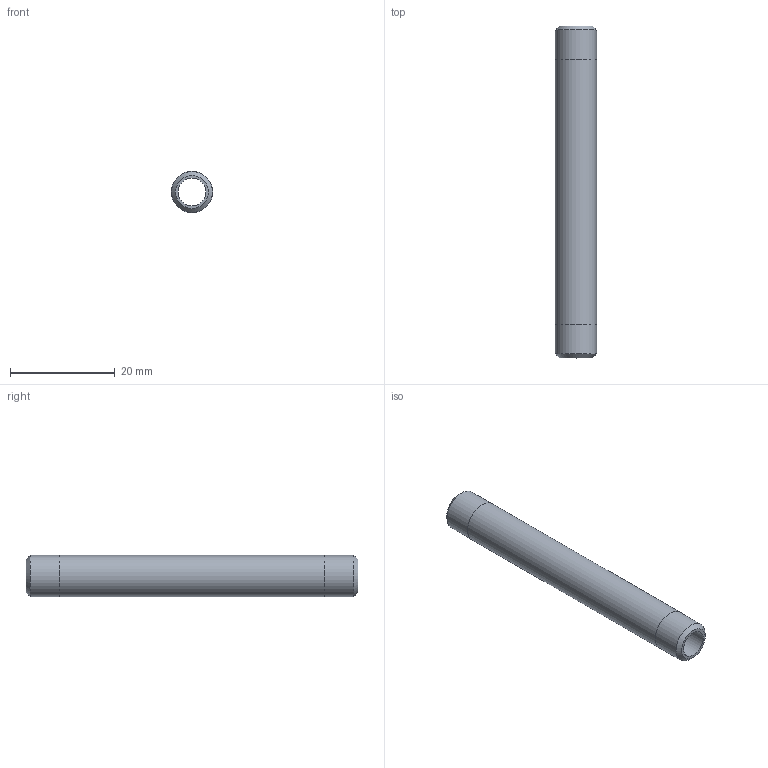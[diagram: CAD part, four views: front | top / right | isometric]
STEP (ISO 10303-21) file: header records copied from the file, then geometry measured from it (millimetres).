
FILE_DESCRIPTION(/* description */ (''),/* implementation_level */ '2;1');
FILE_NAME(/* name */ 'C:/Users/drich/Desktop/SSPN16-2-1_2 v1.step',/* time_stamp */ '2020-01-04T13:22:16-06:00',/* author */ (''),/* organization */ (''),/* preprocessor_version */ 'ST-DEVELOPER v18',/* originating_system */ 'Autodesk Translation Framework v8.12.0.6',/* authorisation */ '');
FILE_SCHEMA (('AUTOMOTIVE_DESIGN { 1 0 10303 214 3 1 1 }'));
Length unit declared in the file: inch
Products named in the file (1): SSPN16-2-1_2
Bounding box: 7.92 x 63.5 x 7.92 mm (x, y, z)
Volume: 1705.2 mm3; surface area: 2668.7 mm2
Topology: 1 solids, 1 shells, 10 faces, 24 edges, 18 vertices
Faces by surface type: cylinder 4, plane 4, cone 2
Full cylindrical faces by diameter (mm): 5.309 x1, 7.874 x2, 7.925 x1
Entity records: 353 total; most frequent: DIRECTION 64, CARTESIAN_POINT 53, ORIENTED_EDGE 48, AXIS2_PLACEMENT_3D 29, EDGE_CURVE 24, CIRCLE 18, VERTEX_POINT 18, EDGE_LOOP 14
